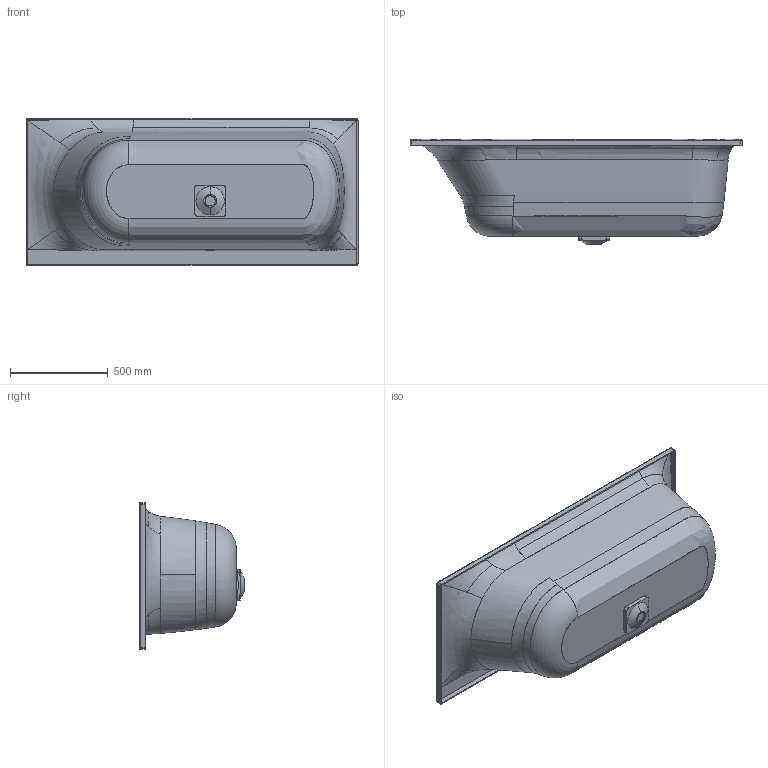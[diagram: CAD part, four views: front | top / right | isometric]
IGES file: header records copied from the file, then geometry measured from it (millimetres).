
Start section: SolidWorks IGES file using analytic representation for surfaces
Global section: file name: D:\Users\M.Szymanski\Desktop\Wanny\Thasos\03. do przegrania\WP_THASOS_75x170.IGS; native system: SolidWorks 2011; preprocessor: SolidWorks 2011; author: M.Szymanski; date: 180427.124315; units: millimetre
Bounding box: 1700 x 539 x 750 mm (x, y, z)
Surface area: 5369618.4 mm2 (no closed solid volume)
Topology: 0 solids, 0 shells, 205 faces, 3370 edges, 3361 vertices
Faces by surface type: bspline 157, revolution 48
